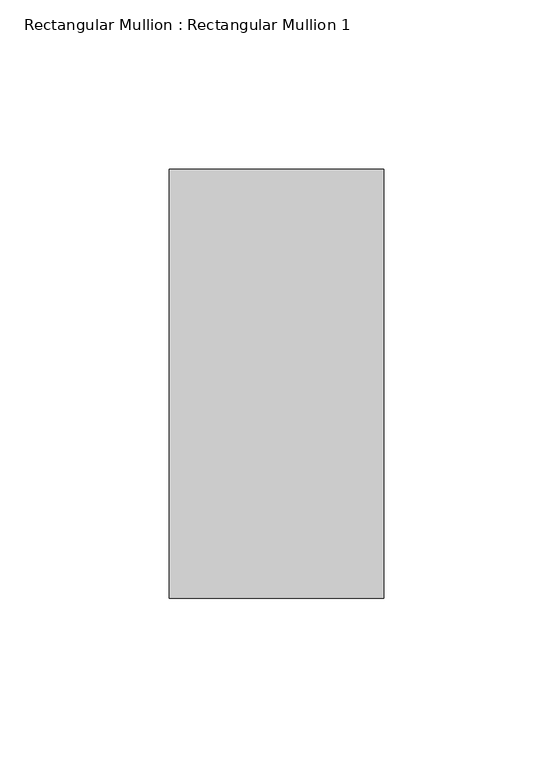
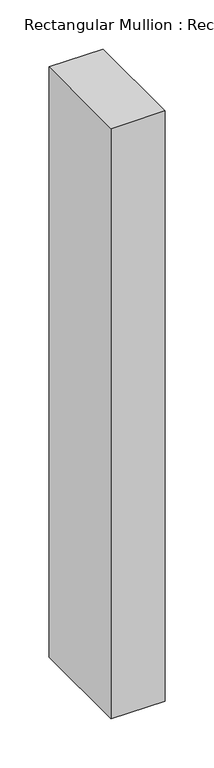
"""IFC4 building model written with IfcOpenShell, lengths in millimetres: member geometry, Rectangular Mullion : Rectangular Mullion 1."""

import ifcopenshell
import ifcopenshell.guid

model = None  # the IFC model being written
_history = None  # IfcOwnerHistory: only IFC2X3 demands one
_inside = {}  # id of a spatial element -> (the spatial element, [elements in it])
_under = {}  # id of a project, library or spatial element -> (it, [spatial elements below it])
_declared = {}  # id of a project -> (the project, [libraries it declares])
_typed = {}  # id of a type object -> (the type object, [elements of that type])
_made_of = {}  # id of a material, layer set ... -> (it, [elements and type objects made of it])


def new_model(schema):
    """Start an empty IFC model of exactly this schema.

    Asked for "IFC4X3", IfcOpenShell would pick the latest addendum, in which some entities
    have other attributes; the version numbers below select the first issue.
    IFC2X3 requires an IfcOwnerHistory on every rooted entity: one is made here for all.
    """
    global model, _history
    if schema == "IFC4X3":
        model = ifcopenshell.file(schema_version=(4, 3, 0, 0))
    else:
        model = ifcopenshell.file(schema=schema)
    _inside.clear()
    _under.clear()
    _declared.clear()
    _typed.clear()
    _made_of.clear()
    _history = None
    if model.schema == "IFC2X3":
        org = make("IfcOrganization", Name="unknown")
        user = make(
            "IfcPersonAndOrganization",
            ThePerson=make("IfcPerson", FamilyName="unknown"),
            TheOrganization=org,
        )
        app = make(
            "IfcApplication",
            ApplicationDeveloper=org,
            Version="unknown",
            ApplicationFullName="unknown",
            ApplicationIdentifier="unknown",
        )
        _history = make(
            "IfcOwnerHistory",
            OwningUser=user,
            OwningApplication=app,
            ChangeAction="ADDED",
            CreationDate=0,
        )
    return model


def make(cls, **values):
    """One entity of the class cls with the attributes given. An attribute that is None is left unset."""
    return model.create_entity(
        cls, **{name: value for name, value in values.items() if value is not None}
    )


def rooted(cls, **values):
    """An entity with a GlobalId (a new one), such as an element, a storey or a relation."""
    return make(cls, GlobalId=ifcopenshell.guid.new(), OwnerHistory=_history, **values)


def si_unit(unit_type, name, prefix=None):
    """IfcSIUnit, for example si_unit("LENGTHUNIT", "METRE", prefix="MILLI")."""
    return make("IfcSIUnit", UnitType=unit_type, Prefix=prefix, Name=name)


def assignment(units):
    """IfcUnitAssignment: the units of a project."""
    return None if units is None else make("IfcUnitAssignment", Units=units)


def point(xyz):
    """IfcCartesianPoint."""
    return None if xyz is None else make("IfcCartesianPoint", Coordinates=xyz)


def direction(xyz):
    """IfcDirection."""
    return None if xyz is None else make("IfcDirection", DirectionRatios=xyz)


def frame(location, z_axis=None, x_axis=None):
    """IfcAxis2Placement3D, a coordinate frame: its origin and axes. An axis left out is left unset."""
    return make(
        "IfcAxis2Placement3D",
        Location=point(location),
        Axis=direction(z_axis),
        RefDirection=direction(x_axis),
    )


def origin():
    """The frame at (0, 0, 0) with its axes left unset."""
    return frame((0.0, 0.0, 0.0))


def place(relative_to, where):
    """IfcLocalPlacement: puts the frame where relative to a parent placement (None: the world)."""
    return make(
        "IfcLocalPlacement", PlacementRelTo=relative_to, RelativePlacement=where
    )


def context(
    kind, dimensions, precision=None, world=None, true_north=None, identifier=None
):
    """IfcGeometricRepresentationContext, for example the 3D "Model" context."""
    return make(
        "IfcGeometricRepresentationContext",
        ContextIdentifier=identifier,
        ContextType=kind,
        CoordinateSpaceDimension=dimensions,
        Precision=precision,
        WorldCoordinateSystem=world,
        TrueNorth=true_north,
    )


def project(units=None, contexts=None):
    """IfcProject with its units and contexts."""
    return rooted(
        "IfcProject",
        Name="project",
        RepresentationContexts=contexts,
        UnitsInContext=assignment(units),
    )


def spatial(cls, under=None, at=None, **own):
    """A site, building, storey or space (cls), placed at a placement, below another one or the project."""
    s = rooted(cls, ObjectPlacement=at, **own)
    if under is not None:
        _under.setdefault(under.id(), (under, []))[1].append(s)
    return s


def polyline(points):
    """IfcPolyline through the points."""
    return make("IfcPolyline", Points=[point(p) for p in points])


def outline(outer, holes=None, kind="AREA"):
    """IfcArbitraryClosedProfileDef: a profile drawn as a closed curve; with holes, ...WithVoids."""
    if holes is None:
        return make("IfcArbitraryClosedProfileDef", ProfileType=kind, OuterCurve=outer)
    return make(
        "IfcArbitraryProfileDefWithVoids",
        ProfileType=kind,
        OuterCurve=outer,
        InnerCurves=holes,
    )


def extrude(swept, where, along, depth):
    """IfcExtrudedAreaSolid: the profile swept, set in the frame where, extruded along a direction by depth."""
    return make(
        "IfcExtrudedAreaSolid",
        SweptArea=swept,
        Position=where,
        ExtrudedDirection=direction(along),
        Depth=depth,
    )


def shape(context_of_items, identifier, shape_type, items):
    """IfcShapeRepresentation: the items that make up one representation, for example the "Body"."""
    return make(
        "IfcShapeRepresentation",
        ContextOfItems=context_of_items,
        RepresentationIdentifier=identifier,
        RepresentationType=shape_type,
        Items=items,
    )


def source(mapping_origin, context_of_items, identifier, shape_type, items):
    """IfcRepresentationMap: a shape defined once, which mapped items show again and again."""
    return make(
        "IfcRepresentationMap",
        MappingOrigin=mapping_origin,
        MappedRepresentation=shape(context_of_items, identifier, shape_type, items),
    )


def transform(
    local_origin,
    x_axis=None,
    y_axis=None,
    z_axis=None,
    scale=None,
    scale2=None,
    scale3=None,
    uniform=True,
):
    """IfcCartesianTransformationOperator3D, or its non-uniform kind. x_axis, y_axis, z_axis: its Axis1, 2, 3."""
    if uniform:
        return make(
            "IfcCartesianTransformationOperator3D",
            Axis1=direction(x_axis),
            Axis2=direction(y_axis),
            LocalOrigin=point(local_origin),
            Scale=scale,
            Axis3=direction(z_axis),
        )
    return make(
        "IfcCartesianTransformationOperator3DnonUniform",
        Axis1=direction(x_axis),
        Axis2=direction(y_axis),
        LocalOrigin=point(local_origin),
        Scale=scale,
        Axis3=direction(z_axis),
        Scale2=scale2,
        Scale3=scale3,
    )


def mapped(mapping_source, mapping_target):
    """IfcMappedItem: shows the shape of a source again, moved by a transform."""
    return make(
        "IfcMappedItem", MappingSource=mapping_source, MappingTarget=mapping_target
    )


def made_of(thing, what):
    """Note that an element or type object is made of a material, layer set ...; save() writes the relation."""
    if what is not None:
        _made_of.setdefault(what.id(), (what, []))[1].append(thing)
    return thing


def element(
    cls,
    number,
    at=None,
    inside=None,
    cuts=None,
    type_object=None,
    material=None,
    context=None,
    identifier="Body",
    shape_type=None,
    held_by="IfcProductDefinitionShape",
    body=None,
    shapes=None,
    **own,
):
    """One element of the class cls, such as IfcWall. Its Tag is "e" and its number.

    at: its placement. inside: the storey or other place that contains it. cuts: it is an
    opening in that element (IfcRelVoidsElement). A single representation is given by context,
    identifier, shape_type and body (its items); several are given by shapes. held_by: the class
    of the entity that holds the representations. save() writes the other relations.
    """
    e = rooted(cls, Tag="e%d" % number, ObjectPlacement=at, **own)
    if body is not None:
        shapes = [shape(context, identifier, shape_type, body)]
    if shapes is not None:
        e.Representation = make(held_by, Representations=shapes)
    if inside is not None:
        _inside.setdefault(inside.id(), (inside, []))[1].append(e)
    if cuts is not None:
        rooted(
            "IfcRelVoidsElement", RelatingBuildingElement=cuts, RelatedOpeningElement=e
        )
    if type_object is not None:
        _typed.setdefault(type_object.id(), (type_object, []))[1].append(e)
    return made_of(e, material)


def aggregate(whole, parts):
    """IfcRelAggregates: a whole, such as a stair, and the parts it consists of."""
    return rooted("IfcRelAggregates", RelatingObject=whole, RelatedObjects=parts)


def save(model, path):
    """Write the relations noted so far, then the file.

    IfcRelAggregates (storeys below a building ...), IfcRelContainedInSpatialStructure (elements
    in a storey), IfcRelDefinesByType, IfcRelAssociatesMaterial and IfcRelDeclares: one each for
    every whole, place, type object, material and project.
    """
    for whole, parts in _under.values():
        aggregate(whole, parts)
    for where, things in _inside.values():
        rooted(
            "IfcRelContainedInSpatialStructure",
            RelatedElements=things,
            RelatingStructure=where,
        )
    for kind, things in _typed.values():
        rooted("IfcRelDefinesByType", RelatedObjects=things, RelatingType=kind)
    for what, things in _made_of.values():
        rooted("IfcRelAssociatesMaterial", RelatedObjects=things, RelatingMaterial=what)
    for by, libraries in _declared.values():
        rooted("IfcRelDeclares", RelatingContext=by, RelatedDefinitions=libraries)
    model.write(path)


def rectangular_mullion_rectangular_mullion_1_7c80449b(model_context):
    return source(origin(), model_context, "Body", "SweptSolid", [
        extrude(outline(polyline([(0.0, 63.5), (0.0, -63.5), (-63.5, -63.5), (-63.5, 63.5), (0.0, 63.5)])), frame((0.0, 0.0, -733.9526365), z_axis=(0.0, 0.0, 1.0), x_axis=(1.0, 0.0, 0.0)), (0.0, 0.0, 1.0), 733.9526365),
    ])


if __name__ == "__main__":
    model = new_model("IFC4")
    model_context = context("Model", 3, world=origin())
    ifc_project = project(units=[si_unit("LENGTHUNIT", "METRE", prefix="MILLI")], contexts=[model_context])
    site = spatial("IfcSite", under=ifc_project)
    building = spatial("IfcBuilding", under=site)
    placement = place(None, origin())
    rectangular_mullion_rectangular_mullion_1_shape = rectangular_mullion_rectangular_mullion_1_7c80449b(model_context)
    element("IfcMember", 1, ObjectType="Rectangular Mullion : Rectangular Mullion 1", at=placement, inside=building, context=model_context, shape_type="MappedRepresentation", body=[
        mapped(rectangular_mullion_rectangular_mullion_1_shape, transform((0.0, 0.0, 0.0), x_axis=(1.0, 0.0, 0.0), y_axis=(0.0, 1.0, 0.0), z_axis=(0.0, 0.0, 1.0))),
    ])
    save(model, "model.ifc")
